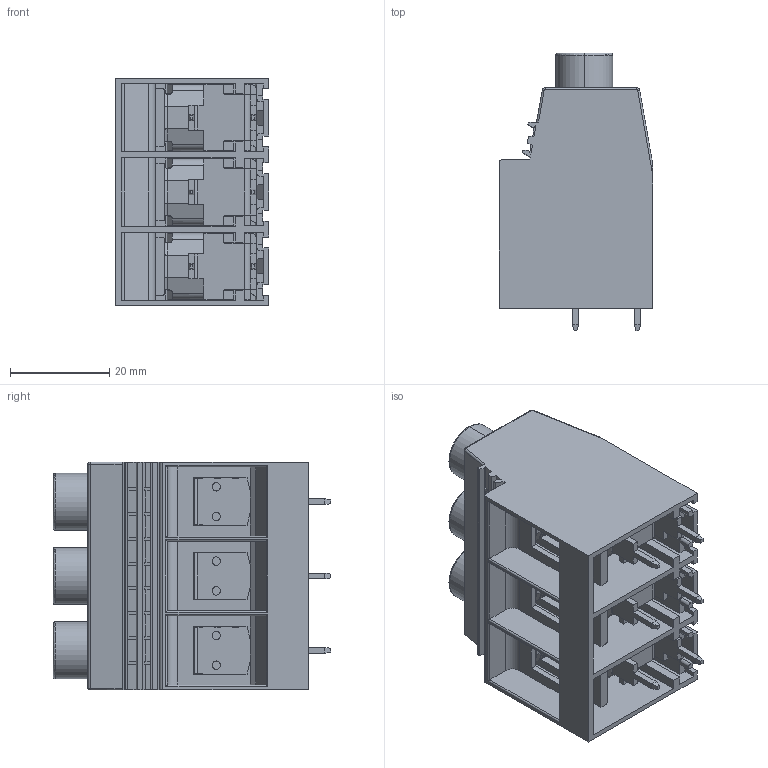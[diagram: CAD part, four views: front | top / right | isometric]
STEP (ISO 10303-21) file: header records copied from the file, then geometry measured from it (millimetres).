
FILE_DESCRIPTION((''),'2;1');
FILE_NAME('PRT0001','2021-05-11T',('guoxue_sz'),(''),'CREO PARAMETRIC BY PTC INC, 2016260','CREO PARAMETRIC BY PTC INC, 2016260','');
FILE_SCHEMA(('CONFIG_CONTROL_DESIGN'));
Products named in the file (1): PRT0001
Bounding box: 31 x 56 x 46 mm (x, y, z)
Volume: 25116.6 mm3; surface area: 36444.4 mm2
Topology: 1 solids, 1 shells, 2126 faces, 5393 edges, 3284 vertices
Faces by surface type: plane 1655, cylinder 359, bspline 60, cone 27, torus 25
Entity records: 82231 total; most frequent: CARTESIAN_POINT 32139, ORIENTED_EDGE 10786, DIRECTION 9607, EDGE_CURVE 5393, VECTOR 4377, LINE 4377, VERTEX_POINT 3284, AXIS2_PLACEMENT_3D 2615
